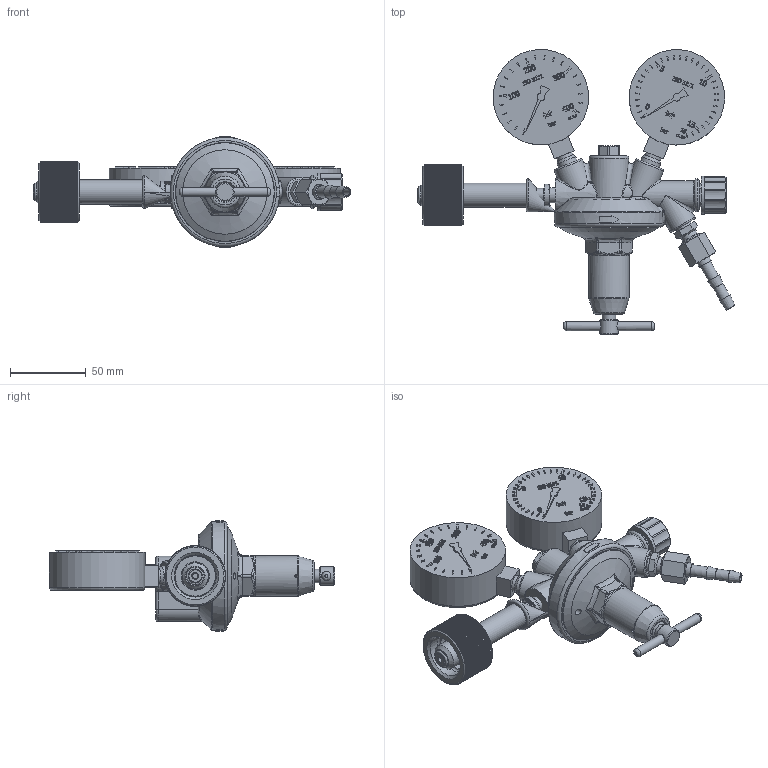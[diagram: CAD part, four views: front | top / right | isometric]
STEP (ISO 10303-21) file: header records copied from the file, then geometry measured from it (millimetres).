
FILE_DESCRIPTION(/* description */ (''),/* implementation_level */ '2;1');
FILE_NAME(/* name */ 'C:\Vault_AB\Konstruktionen\an weitergeleitet\Tezlaff\00308100 - 2.stp',/* time_stamp */ '2018-06-06T13:38:39+02:00',/* author */ ('konstruktion'),/* organization */ (''),/* preprocessor_version */ 'ST-DEVELOPER v16.5',/* originating_system */ 'Autodesk Inventor 2017',/* authorisation */ '');
FILE_SCHEMA (('AUTOMOTIVE_DESIGN { 1 0 10303 214 3 1 1 }'));
Length unit declared in the file: millimetre
Products named in the file (1): 00308100 - 2
Bounding box: 209.57 x 188.01 x 72.98 mm (x, y, z)
Volume: 1617 mm3; surface area: 110230.5 mm2
Topology: 17 solids, 22 shells, 2867 faces, 7499 edges, 4837 vertices
Faces by surface type: plane 1488, bspline 614, cylinder 460, cone 231, torus 62, sphere 12
Full cylindrical faces by diameter (mm): 0.346 x1, 0.446 x1, 1.5 x1, 2 x5, 2.5 x3, 3 x4, 3.242 x1, 3.5 x4, 4 x3, 4.134 x1, 4.5 x4, 4.55 x1, 4.6 x1, 4.8 x2, 4.9 x1, 5 x5, 5.2 x1, 5.4 x1, 5.5 x3, 5.8 x2, 6 x3, 6.45 x2, 6.5 x3, 6.7 x1, 6.75 x1, 6.8 x1, 6.917 x2, 7 x2, 7.3 x2, 7.5 x1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
Entity records: 100794 total; most frequent: CARTESIAN_POINT 32230, ORIENTED_EDGE 13952, DIRECTION 12406, EDGE_CURVE 6969, VERTEX_POINT 4712, AXIS2_PLACEMENT_3D 4523, EDGE_LOOP 3513, LINE 3360
